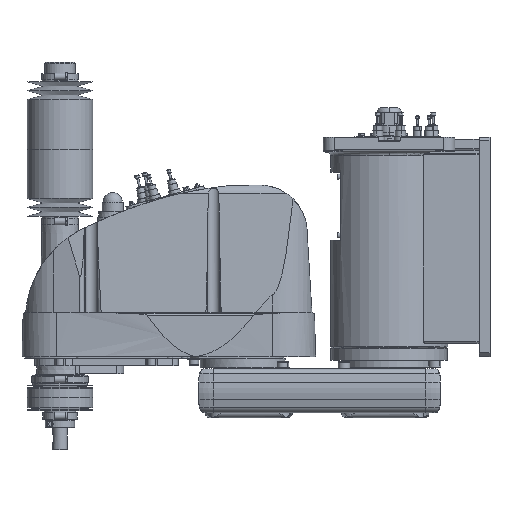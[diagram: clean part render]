
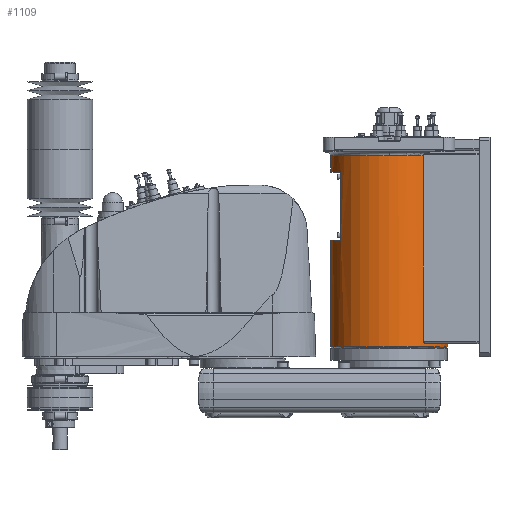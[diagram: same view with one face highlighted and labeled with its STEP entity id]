
A CAD part, top view. The second image highlights one B-rep face of the part: STEP entity #1109.
In plain terms, the highlighted cylindrical face has radius 80 mm (diameter 160 mm), a partial arc.
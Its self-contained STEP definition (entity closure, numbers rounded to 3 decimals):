
#1109 = ADVANCED_FACE( '', ( #3787 ), #3788, .T. );
#3787 = FACE_OUTER_BOUND( '', #7806, .T. );
#3788 = CYLINDRICAL_SURFACE( '', #7807, 80. );
#7806 = EDGE_LOOP( '', ( #15795, #15796, #15797, #15798, #15799, #15800, #15801, #15802, #15803, #15804, #15805, #15806 ) );
#7807 = AXIS2_PLACEMENT_3D( '', #15807, #15808, #15809 );
#15795 = ORIENTED_EDGE( '', *, *, #24922, .T. );
#15796 = ORIENTED_EDGE( '', *, *, #26503, .T. );
#15797 = ORIENTED_EDGE( '', *, *, #26500, .T. );
#15798 = ORIENTED_EDGE( '', *, *, #26497, .T. );
#15799 = ORIENTED_EDGE( '', *, *, #24973, .F. );
#15800 = ORIENTED_EDGE( '', *, *, #24979, .F. );
#15801 = ORIENTED_EDGE( '', *, *, #24928, .T. );
#15802 = ORIENTED_EDGE( '', *, *, #26315, .T. );
#15803 = ORIENTED_EDGE( '', *, *, #26317, .T. );
#15804 = ORIENTED_EDGE( '', *, *, #26318, .T. );
#15805 = ORIENTED_EDGE( '', *, *, #24924, .T. );
#15806 = ORIENTED_EDGE( '', *, *, #26618, .T. );
#15807 = CARTESIAN_POINT( '', ( 0., 160.75, 0. ) );
#15808 = DIRECTION( '', ( 0., -1., 0. ) );
#15809 = DIRECTION( '', ( 1., 0., 0. ) );
#24922 = EDGE_CURVE( '', #29420, #29421, #29422, .T. );
#24924 = EDGE_CURVE( '', #29425, #29423, #29426, .T. );
#24928 = EDGE_CURVE( '', #29433, #29431, #29434, .T. );
#24973 = EDGE_CURVE( '', #29519, #29521, #29522, .T. );
#24979 = EDGE_CURVE( '', #29433, #29519, #29532, .T. );
#26315 = EDGE_CURVE( '', #29431, #31727, #31729, .T. );
#26317 = EDGE_CURVE( '', #31727, #31730, #31732, .T. );
#26318 = EDGE_CURVE( '', #31730, #29425, #31733, .T. );
#26497 = EDGE_CURVE( '', #32018, #29521, #32019, .T. );
#26500 = EDGE_CURVE( '', #32022, #32018, #32023, .T. );
#26503 = EDGE_CURVE( '', #29421, #32022, #32026, .T. );
#26618 = EDGE_CURVE( '', #29423, #29420, #32200, .T. );
#29420 = VERTEX_POINT( '', #36796 );
#29421 = VERTEX_POINT( '', #36797 );
#29422 = LINE( '', #36798, #36799 );
#29423 = VERTEX_POINT( '', #36800 );
#29425 = VERTEX_POINT( '', #36802 );
#29426 = LINE( '', #36803, #36804 );
#29431 = VERTEX_POINT( '', #36810 );
#29433 = VERTEX_POINT( '', #36812 );
#29434 = LINE( '', #36813, #36814 );
#29519 = VERTEX_POINT( '', #36935 );
#29521 = VERTEX_POINT( '', #36937 );
#29522 = CIRCLE( '', #36938, 80. );
#29532 = CIRCLE( '', #36985, 80. );
#31727 = VERTEX_POINT( '', #40056 );
#31729 = CIRCLE( '', #40059, 80. );
#31730 = VERTEX_POINT( '', #40060 );
#31732 = LINE( '', #40063, #40064 );
#31733 = CIRCLE( '', #40065, 80. );
#32018 = VERTEX_POINT( '', #40543 );
#32019 = LINE( '', #40544, #40545 );
#32022 = VERTEX_POINT( '', #40550 );
#32023 = B_SPLINE_CURVE_WITH_KNOTS( '', 3, ( #40551, #40552, #40553, #40554, #40555, #40556, #40557, #40558, #40559, #40560, #40561, #40562, #40563, #40564, #40565, #40566 ), .UNSPECIFIED., .F., .F., ( 4, 2, 2, 2, 2, 2, 2, 4 ), ( -6.06, -5.11, -4.16, -2.26, -1.695, -1.13, -0.565, 0. ), .UNSPECIFIED. );
#32026 = CIRCLE( '', #40571, 80. );
#32200 = CIRCLE( '', #40946, 80. );
#36796 = CARTESIAN_POINT( '', ( 80., 30., 0. ) );
#36797 = CARTESIAN_POINT( '', ( 80., 34.5, 0. ) );
#36798 = CARTESIAN_POINT( '', ( 80., 160.75, 0. ) );
#36799 = VECTOR( '', #50915, 1. );
#36800 = CARTESIAN_POINT( '', ( -80., 30., 0. ) );
#36802 = CARTESIAN_POINT( '', ( -80., 176., 0. ) );
#36803 = CARTESIAN_POINT( '', ( -80., 160.75, 0. ) );
#36804 = VECTOR( '', #50919, 1. );
#36810 = CARTESIAN_POINT( '', ( -80., 269., 0. ) );
#36812 = CARTESIAN_POINT( '', ( -80., 291.5, 0. ) );
#36813 = CARTESIAN_POINT( '', ( -80., 160.75, 0. ) );
#36814 = VECTOR( '', #50927, 1. );
#36935 = CARTESIAN_POINT( '', ( 0., 291.5, 80. ) );
#36937 = CARTESIAN_POINT( '', ( 46.637, 291.5, 65. ) );
#36938 = AXIS2_PLACEMENT_3D( '', #51015, #51016, #51017 );
#36985 = AXIS2_PLACEMENT_3D( '', #51024, #51025, #51026 );
#40056 = CARTESIAN_POINT( '', ( -66., 269., 45.211 ) );
#40059 = AXIS2_PLACEMENT_3D( '', #53370, #53371, #53372 );
#40060 = CARTESIAN_POINT( '', ( -66., 176., 45.211 ) );
#40063 = CARTESIAN_POINT( '', ( -66., 222.5, 45.211 ) );
#40064 = VECTOR( '', #53374, 1. );
#40065 = AXIS2_PLACEMENT_3D( '', #53375, #53376, #53377 );
#40543 = CARTESIAN_POINT( '', ( 46.637, 37.5, 65. ) );
#40544 = CARTESIAN_POINT( '', ( 46.637, 164.5, 65. ) );
#40545 = VECTOR( '', #53618, 1. );
#40550 = CARTESIAN_POINT( '', ( 50.557, 34.5, 62. ) );
#40551 = CARTESIAN_POINT( '', ( 50.557, 34.5, 62. ) );
#40552 = CARTESIAN_POINT( '', ( 50.312, 34.5, 62.2 ) );
#40553 = CARTESIAN_POINT( '', ( 50.054, 34.52, 62.407 ) );
#40554 = CARTESIAN_POINT( '', ( 49.533, 34.607, 62.822 ) );
#40555 = CARTESIAN_POINT( '', ( 49.269, 34.674, 63.029 ) );
#40556 = CARTESIAN_POINT( '', ( 48.491, 34.945, 63.632 ) );
#40557 = CARTESIAN_POINT( '', ( 47.991, 35.221, 64.009 ) );
#40558 = CARTESIAN_POINT( '', ( 47.455, 35.701, 64.405 ) );
#40559 = CARTESIAN_POINT( '', ( 47.333, 35.827, 64.495 ) );
#40560 = CARTESIAN_POINT( '', ( 47.106, 36.105, 64.661 ) );
#40561 = CARTESIAN_POINT( '', ( 47.002, 36.258, 64.736 ) );
#40562 = CARTESIAN_POINT( '', ( 46.828, 36.585, 64.863 ) );
#40563 = CARTESIAN_POINT( '', ( 46.758, 36.761, 64.913 ) );
#40564 = CARTESIAN_POINT( '', ( 46.662, 37.124, 64.982 ) );
#40565 = CARTESIAN_POINT( '', ( 46.637, 37.312, 65. ) );
#40566 = CARTESIAN_POINT( '', ( 46.637, 37.5, 65. ) );
#40571 = AXIS2_PLACEMENT_3D( '', #53623, #53624, #53625 );
#40946 = AXIS2_PLACEMENT_3D( '', #53805, #53806, #53807 );
#50915 = DIRECTION( '', ( 0., 1., 0. ) );
#50919 = DIRECTION( '', ( 0., -1., 0. ) );
#50927 = DIRECTION( '', ( 0., -1., 0. ) );
#51015 = CARTESIAN_POINT( '', ( 0., 291.5, 0. ) );
#51016 = DIRECTION( '', ( 0., 1., 0. ) );
#51017 = DIRECTION( '', ( 1., 0., 0. ) );
#51024 = CARTESIAN_POINT( '', ( 0., 291.5, 0. ) );
#51025 = DIRECTION( '', ( 0., 1., 0. ) );
#51026 = DIRECTION( '', ( 1., 0., 0. ) );
#53370 = CARTESIAN_POINT( '', ( 0., 269., 0. ) );
#53371 = DIRECTION( '', ( 0., 1., 0. ) );
#53372 = DIRECTION( '', ( 1., 0., 0. ) );
#53374 = DIRECTION( '', ( 0., -1., 0. ) );
#53375 = CARTESIAN_POINT( '', ( 0., 176., 0. ) );
#53376 = DIRECTION( '', ( 0., -1., 0. ) );
#53377 = DIRECTION( '', ( 1., 0., 0. ) );
#53618 = DIRECTION( '', ( 0., 1., 0. ) );
#53623 = CARTESIAN_POINT( '', ( 0., 34.5, 0. ) );
#53624 = DIRECTION( '', ( 0., -1., 0. ) );
#53625 = DIRECTION( '', ( 1., 0., 0. ) );
#53805 = CARTESIAN_POINT( '', ( 0., 30., 0. ) );
#53806 = DIRECTION( '', ( 0., 1., 0. ) );
#53807 = DIRECTION( '', ( 1., 0., 0. ) );
